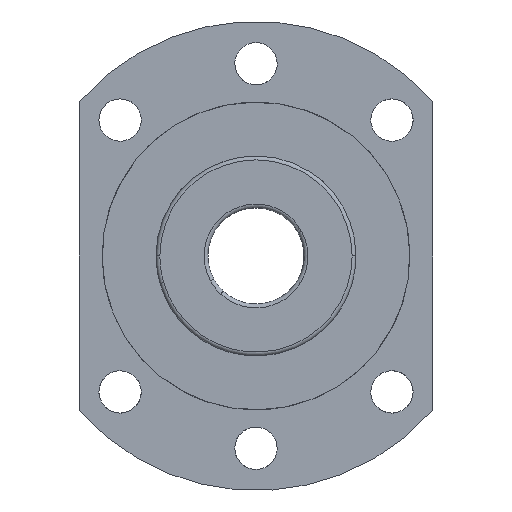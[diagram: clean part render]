
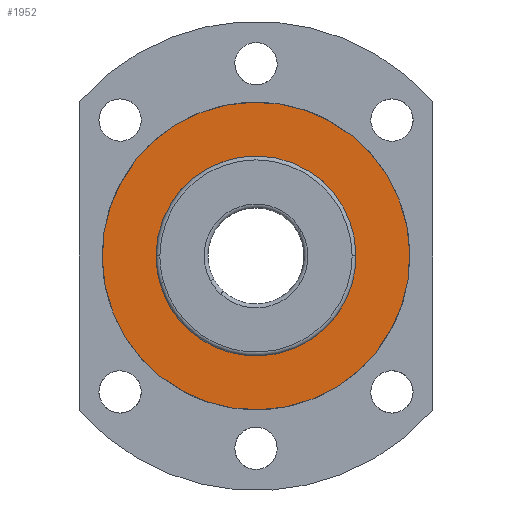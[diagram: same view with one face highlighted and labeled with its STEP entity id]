
A CAD part, left-side view. The second image highlights one B-rep face of the part: STEP entity #1952.
In plain terms, the highlighted planar face has unit normal (-1, 0, 0).
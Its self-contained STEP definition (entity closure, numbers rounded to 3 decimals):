
#1240=CARTESIAN_POINT('Vertex',(-15.,22.817,-12.465)) ;
#1244=CARTESIAN_POINT('Control Point',(-15.,-22.817,12.465)) ;
#1245=CARTESIAN_POINT('Control Point',(-15.,-24.775,8.881)) ;
#1246=CARTESIAN_POINT('Control Point',(-15.,-26.029,4.912)) ;
#1247=CARTESIAN_POINT('Control Point',(-15.,-26.478,0.743)) ;
#1248=CARTESIAN_POINT('Control Point',(-15.,-25.718,-7.546)) ;
#1249=CARTESIAN_POINT('Control Point',(-15.,-21.879,-14.932)) ;
#1250=CARTESIAN_POINT('Control Point',(-15.,-19.249,-18.197)) ;
#1251=CARTESIAN_POINT('Control Point',(-15.,-12.85,-23.521)) ;
#1252=CARTESIAN_POINT('Control Point',(-15.,-4.912,-26.029)) ;
#1253=CARTESIAN_POINT('Control Point',(-15.,-0.743,-26.478)) ;
#1254=CARTESIAN_POINT('Control Point',(-15.,7.546,-25.718)) ;
#1255=CARTESIAN_POINT('Control Point',(-15.,14.932,-21.879)) ;
#1256=CARTESIAN_POINT('Control Point',(-15.,18.197,-19.249)) ;
#1257=CARTESIAN_POINT('Control Point',(-15.,20.859,-16.049)) ;
#1258=CARTESIAN_POINT('Control Point',(-15.,22.817,-12.465)) ;
#1259=CARTESIAN_POINT('Vertex',(-15.,-22.817,12.465)) ;
#1279=CARTESIAN_POINT('Axis2P3D Location',(-15.,0.,0.)) ;
#1600=CARTESIAN_POINT('Vertex',(-15.,-19.177,35.103)) ;
#1607=CARTESIAN_POINT('Vertex',(-15.,19.177,-35.103)) ;
#1610=CARTESIAN_POINT('Axis2P3D Location',(-15.,0.,0.)) ;
#1627=CARTESIAN_POINT('Axis2P3D Location',(-15.,0.,0.)) ;
#1939=CARTESIAN_POINT('Axis2P3D Location',(-15.,0.,0.)) ;
#1280=DIRECTION('Axis2P3D Direction',(-1.,0.,-0.)) ;
#1611=DIRECTION('Axis2P3D Direction',(1.,0.,0.)) ;
#1628=DIRECTION('Axis2P3D Direction',(1.,0.,0.)) ;
#1940=DIRECTION('Axis2P3D Direction',(1.,0.,0.)) ;
#1941=DIRECTION('Axis2P3D XDirection',(0.,1.,0.)) ;
#1281=AXIS2_PLACEMENT_3D('Circle Axis2P3D',#1279,#1280,$) ;
#1612=AXIS2_PLACEMENT_3D('Circle Axis2P3D',#1610,#1611,$) ;
#1629=AXIS2_PLACEMENT_3D('Circle Axis2P3D',#1627,#1628,$) ;
#1942=AXIS2_PLACEMENT_3D('Plane Axis2P3D',#1939,#1940,#1941) ;
#1945=ORIENTED_EDGE('',*,*,#1631,.F.) ;
#1946=ORIENTED_EDGE('',*,*,#1614,.F.) ;
#1949=ORIENTED_EDGE('',*,*,#1283,.T.) ;
#1950=ORIENTED_EDGE('',*,*,#1261,.T.) ;
#1951=FACE_BOUND('',#1948,.T.) ;
#1952=ADVANCED_FACE('FF25(H)',(#1947,#1951),#1943,.F.) ;
#1243=B_SPLINE_CURVE_WITH_KNOTS('',5,(#1244,#1245,#1246,#1247,#1248,#1249,#1250,#1251,#1252,#1253,#1254,#1255,#1256,#1257,#1258),.UNSPECIFIED.,.F.,.U.,(6,3,3,3,6),(-40.841,-20.42,0.,20.42,40.841),.UNSPECIFIED.) ;
#1282=CIRCLE('generated circle',#1281,26.) ;
#1613=CIRCLE('generated circle',#1612,40.) ;
#1630=CIRCLE('generated circle',#1629,40.) ;
#1261=EDGE_CURVE('',#1260,#1241,#1243,.T.) ;
#1283=EDGE_CURVE('',#1241,#1260,#1282,.F.) ;
#1614=EDGE_CURVE('',#1608,#1601,#1613,.T.) ;
#1631=EDGE_CURVE('',#1601,#1608,#1630,.T.) ;
#1944=EDGE_LOOP('',(#1945,#1946)) ;
#1948=EDGE_LOOP('',(#1949,#1950)) ;
#1947=FACE_OUTER_BOUND('',#1944,.T.) ;
#1943=PLANE('Plane',#1942) ;
#1241=VERTEX_POINT('',#1240) ;
#1260=VERTEX_POINT('',#1259) ;
#1601=VERTEX_POINT('',#1600) ;
#1608=VERTEX_POINT('',#1607) ;
